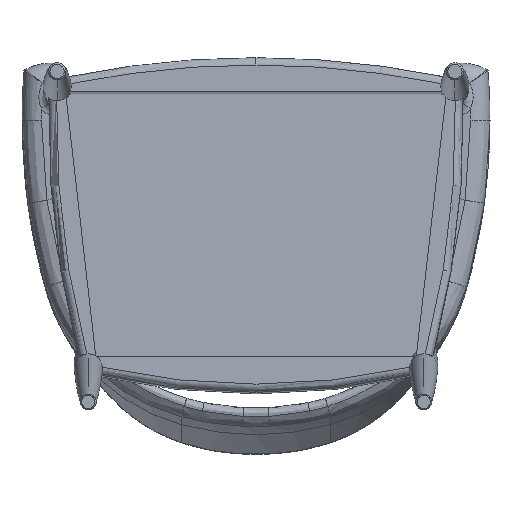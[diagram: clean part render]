
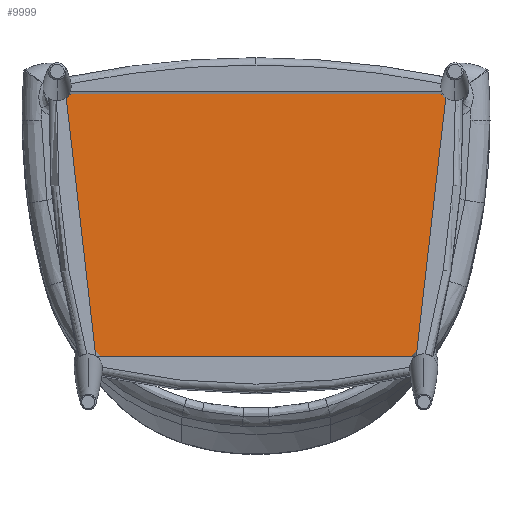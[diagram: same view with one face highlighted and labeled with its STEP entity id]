
A CAD part, front view. The second image highlights one B-rep face of the part: STEP entity #9999.
In plain terms, the highlighted planar face has unit normal (0, -0.999, 0.052).
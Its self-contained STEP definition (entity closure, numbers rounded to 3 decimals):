
#54 = EDGE_LOOP ( 'NONE', ( #14871, #1145, #13697, #10167, #19802, #18324, #16840, #13686, #5508 ) ) ;
#126 = EDGE_CURVE ( 'NONE', #15035, #7530, #18389, .T. ) ;
#178 = CIRCLE ( 'NONE', #19515, 1180. ) ;
#258 = DIRECTION ( 'NONE',  ( 0., 0.999, -0.052 ) ) ;
#385 = EDGE_CURVE ( 'NONE', #14505, #19777, #3703, .T. ) ;
#598 = PLANE ( 'NONE',  #16729 ) ;
#1145 = ORIENTED_EDGE ( 'NONE', *, *, #4063, .T. ) ;
#1464 = EDGE_CURVE ( 'NONE', #19777, #1514, #20185, .T. ) ;
#1514 = VERTEX_POINT ( 'NONE', #17961 ) ;
#1612 = CARTESIAN_POINT ( 'NONE',  ( 934.244, 418.719, -81.236 ) ) ;
#2168 = FACE_OUTER_BOUND ( 'NONE', #54, .T. ) ;
#3199 = DIRECTION ( 'NONE',  ( 0., 0.052, 0.999 ) ) ;
#3227 = DIRECTION ( 'NONE',  ( 0., -0.999, 0.052 ) ) ;
#3297 = CIRCLE ( 'NONE', #11570, 1180. ) ;
#3351 = CARTESIAN_POINT ( 'NONE',  ( -230.548, 419.871, -59.256 ) ) ;
#3703 = CIRCLE ( 'NONE', #19097, 900. ) ;
#3708 = VERTEX_POINT ( 'NONE', #5732 ) ;
#4016 = CARTESIAN_POINT ( 'NONE',  ( 245.545, 419.886, -58.973 ) ) ;
#4063 = EDGE_CURVE ( 'NONE', #14505, #3708, #14275, .T. ) ;
#4195 = CIRCLE ( 'NONE', #4546, 1180. ) ;
#4460 = DIRECTION ( 'NONE',  ( 0., -0.999, 0.052 ) ) ;
#4546 = AXIS2_PLACEMENT_3D ( 'NONE', #1612, #258, #17106 ) ;
#4595 = AXIS2_PLACEMENT_3D ( 'NONE', #12993, #4460, #3199 ) ;
#4867 = CARTESIAN_POINT ( 'NONE',  ( -209.327, 403.493, -371.777 ) ) ;
#5508 = ORIENTED_EDGE ( 'NONE', *, *, #1464, .F. ) ;
#5581 = CARTESIAN_POINT ( 'NONE',  ( -934.244, 418.719, -81.236 ) ) ;
#5620 = DIRECTION ( 'NONE',  ( 0., 0.052, 0.999 ) ) ;
#5732 = CARTESIAN_POINT ( 'NONE',  ( 209.327, 403.493, -371.777 ) ) ;
#5739 = CARTESIAN_POINT ( 'NONE',  ( 0., 360.106, -1199.651 ) ) ;
#6614 = EDGE_CURVE ( 'NONE', #12301, #11251, #9766, .T. ) ;
#6717 = CARTESIAN_POINT ( 'NONE',  ( -245.545, 419.886, -58.973 ) ) ;
#6744 = EDGE_CURVE ( 'NONE', #15035, #11251, #3297, .T. ) ;
#6810 = CARTESIAN_POINT ( 'NONE',  ( -185.098, 403.815, -365.622 ) ) ;
#7418 = DIRECTION ( 'NONE',  ( 0., 0.999, -0.052 ) ) ;
#7530 = VERTEX_POINT ( 'NONE', #6717 ) ;
#8060 = DIRECTION ( 'NONE',  ( 0., 0.999, -0.052 ) ) ;
#8731 = DIRECTION ( 'NONE',  ( 0., 0.052, 0.999 ) ) ;
#9373 = DIRECTION ( 'NONE',  ( 0., -0.999, 0.052 ) ) ;
#9766 = CIRCLE ( 'NONE', #14068, 15. ) ;
#9916 = EDGE_CURVE ( 'NONE', #11203, #7530, #4195, .T. ) ;
#9999 = ADVANCED_FACE ( 'NONE', ( #2168 ), #598, .F. ) ;
#10167 = ORIENTED_EDGE ( 'NONE', *, *, #6614, .T. ) ;
#10714 = DIRECTION ( 'NONE',  ( 0., 0.999, -0.052 ) ) ;
#11203 = VERTEX_POINT ( 'NONE', #4867 ) ;
#11251 = VERTEX_POINT ( 'NONE', #16641 ) ;
#11286 = CARTESIAN_POINT ( 'NONE',  ( 230.548, 419.871, -59.256 ) ) ;
#11570 = AXIS2_PLACEMENT_3D ( 'NONE', #5739, #12276, #15746 ) ;
#12276 = DIRECTION ( 'NONE',  ( 0., 0.999, -0.052 ) ) ;
#12301 = VERTEX_POINT ( 'NONE', #4016 ) ;
#12386 = EDGE_CURVE ( 'NONE', #12301, #3708, #178, .T. ) ;
#12993 = CARTESIAN_POINT ( 'NONE',  ( 185.098, 403.815, -365.622 ) ) ;
#13031 = AXIS2_PLACEMENT_3D ( 'NONE', #3351, #15255, #20168 ) ;
#13082 = DIRECTION ( 'NONE',  ( 0., 0.052, 0.999 ) ) ;
#13348 = CARTESIAN_POINT ( 'NONE',  ( 190.387, 402.536, -390.023 ) ) ;
#13680 = DIRECTION ( 'NONE',  ( 0., 0.052, 0.999 ) ) ;
#13686 = ORIENTED_EDGE ( 'NONE', *, *, #13870, .T. ) ;
#13697 = ORIENTED_EDGE ( 'NONE', *, *, #12386, .F. ) ;
#13870 = EDGE_CURVE ( 'NONE', #11203, #1514, #15461, .T. ) ;
#14060 = CARTESIAN_POINT ( 'NONE',  ( 0., 448.573, 488.404 ) ) ;
#14068 = AXIS2_PLACEMENT_3D ( 'NONE', #11286, #9373, #13082 ) ;
#14275 = CIRCLE ( 'NONE', #4595, 25. ) ;
#14505 = VERTEX_POINT ( 'NONE', #13348 ) ;
#14871 = ORIENTED_EDGE ( 'NONE', *, *, #385, .F. ) ;
#15035 = VERTEX_POINT ( 'NONE', #15430 ) ;
#15255 = DIRECTION ( 'NONE',  ( 0., -0.999, 0.052 ) ) ;
#15430 = CARTESIAN_POINT ( 'NONE',  ( -233.516, 420.641, -44.573 ) ) ;
#15461 = CIRCLE ( 'NONE', #19731, 25. ) ;
#15746 = DIRECTION ( 'NONE',  ( 0., 0.052, 0.999 ) ) ;
#15756 = CARTESIAN_POINT ( 'NONE',  ( -467.122, 433.646, 203.584 ) ) ;
#16641 = CARTESIAN_POINT ( 'NONE',  ( 233.516, 420.641, -44.573 ) ) ;
#16695 = DIRECTION ( 'NONE',  ( 0., 0.052, 0.999 ) ) ;
#16729 = AXIS2_PLACEMENT_3D ( 'NONE', #15756, #10714, #17652 ) ;
#16840 = ORIENTED_EDGE ( 'NONE', *, *, #9916, .F. ) ;
#16915 = CARTESIAN_POINT ( 'NONE',  ( 0., 448.573, 488.404 ) ) ;
#17106 = DIRECTION ( 'NONE',  ( 0., 0.052, 0.999 ) ) ;
#17652 = DIRECTION ( 'NONE',  ( 0., 0.052, 0.999 ) ) ;
#17692 = DIRECTION ( 'NONE',  ( 0., 0.999, -0.052 ) ) ;
#17961 = CARTESIAN_POINT ( 'NONE',  ( -190.387, 402.536, -390.023 ) ) ;
#18324 = ORIENTED_EDGE ( 'NONE', *, *, #126, .T. ) ;
#18389 = CIRCLE ( 'NONE', #13031, 15. ) ;
#19097 = AXIS2_PLACEMENT_3D ( 'NONE', #16915, #8060, #16695 ) ;
#19112 = AXIS2_PLACEMENT_3D ( 'NONE', #14060, #7418, #5620 ) ;
#19515 = AXIS2_PLACEMENT_3D ( 'NONE', #5581, #17692, #8731 ) ;
#19731 = AXIS2_PLACEMENT_3D ( 'NONE', #6810, #3227, #13680 ) ;
#19777 = VERTEX_POINT ( 'NONE', #22093 ) ;
#19802 = ORIENTED_EDGE ( 'NONE', *, *, #6744, .F. ) ;
#20168 = DIRECTION ( 'NONE',  ( 0., 0.052, 0.999 ) ) ;
#20185 = CIRCLE ( 'NONE', #19112, 900. ) ;
#22093 = CARTESIAN_POINT ( 'NONE',  ( 0., 401.47, -410.362 ) ) ;
